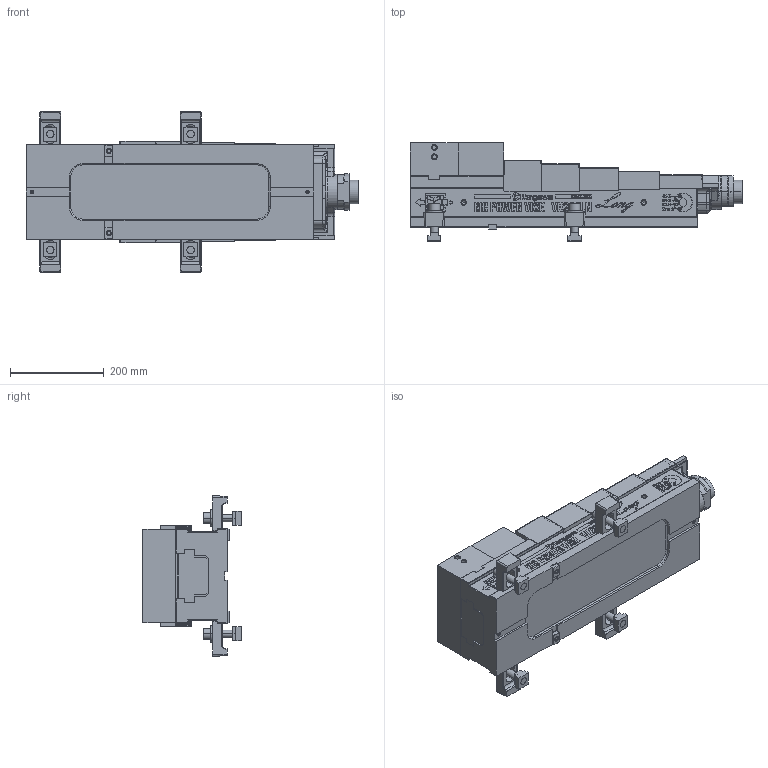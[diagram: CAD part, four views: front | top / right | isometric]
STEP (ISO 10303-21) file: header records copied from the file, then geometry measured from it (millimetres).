
FILE_DESCRIPTION (( 'STEP AP214' ), '1' );
FILE_NAME ('VE200LN_C.STEP', '2023-08-04T07:03:41', ( '' ), ( '' ), 'SwSTEP 2.0', 'SolidWorks 2020', '' );
FILE_SCHEMA (( 'AUTOMOTIVE_DESIGN' ));
Length unit declared in the file: millimetre
Products named in the file (22): 僒僀僪僔乕儖L(61M2680430); ボデー(61M2403025)VE200L; クランプクミタテ(61M420565); 僗儔僀僪僇僶乕Y(61M3593683)VE200L; 僕儑乕F(61M3964312)VE200N; リボルバ部; エンドカバー（61M4625121）; 僕儑乕M(61俵3964320)VE200N; カバーリング(61M4399252)VE160N; スプリングケース(61M2367042)VE200; VE200LN_C; T僗儘僢僩僫僢僩俿俶俵侾俉侾俇; 僗儔僀僪僇僶乕W(61M3593663)VE200L; 僗儔僀僪僇僶乕Z(61M3593692)VE200L; 僗儔僀僪僇僶乕X(61M3593673)VE200L; 儚僢僔儍丂16乮61M4266330乯; 僗儔僀僪僇僶乕V(61M3593652)VE200L; ガイドブロック(61M4197783); 僒僀僪僔乕儖R(61M2680420); クランプ(61M3159626)VP160; VE200LNホンタイ; Bアナツキ M16×65
Assembly tree (25 placements, depth 3):
  VE200LN_C
    VE200LNホンタイ
      ボデー(61M2403025)VE200L
      ガイドブロック(61M4197783)  x2
      僕儑乕F(61M3964312)VE200N
      スプリングケース(61M2367042)VE200
      カバーリング(61M4399252)VE160N
      リボルバ部
      エンドカバー（61M4625121）
      僕儑乕M(61俵3964320)VE200N
      僗儔僀僪僇僶乕V(61M3593652)VE200L
      僗儔僀僪僇僶乕W(61M3593663)VE200L
      僗儔僀僪僇僶乕X(61M3593673)VE200L
      僗儔僀僪僇僶乕Y(61M3593683)VE200L
      僗儔僀僪僇僶乕Z(61M3593692)VE200L
      僒僀僪僔乕儖L(61M2680430)
      僒僀僪僔乕儖R(61M2680420)
    クランプクミタテ(61M420565)  x4
      クランプ(61M3159626)VP160
      儚僢僔儍丂16乮61M4266330乯
      Bアナツキ M16×65
      T僗儘僢僩僫僢僩俿俶俵侾俉侾俇
Bounding box: 710 x 210 x 344 mm (x, y, z)
Volume: 16659539.5 mm3; surface area: 1306004.2 mm2
Topology: 32 solids, 32 shells, 1246 faces, 6090 edges, 5214 vertices
Faces by surface type: plane 872, cylinder 263, cone 79, torus 19, bspline 13
Entity records: 70046 total; most frequent: CARTESIAN_POINT 19284, ORIENTED_EDGE 11110, DIRECTION 7669, EDGE_CURVE 5555, VERTEX_POINT 4884, LINE 4513, VECTOR 4513, AXIS2_PLACEMENT_3D 1578
